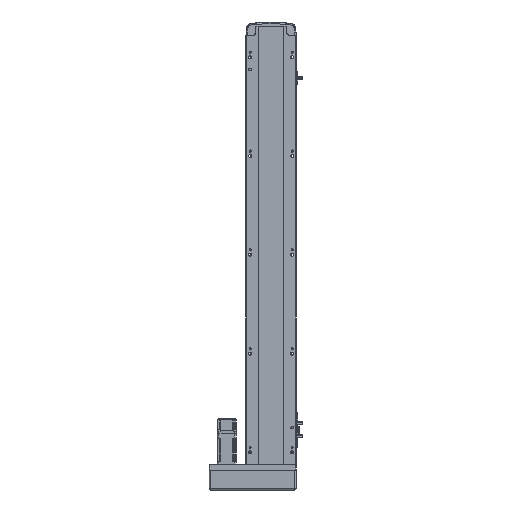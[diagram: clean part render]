
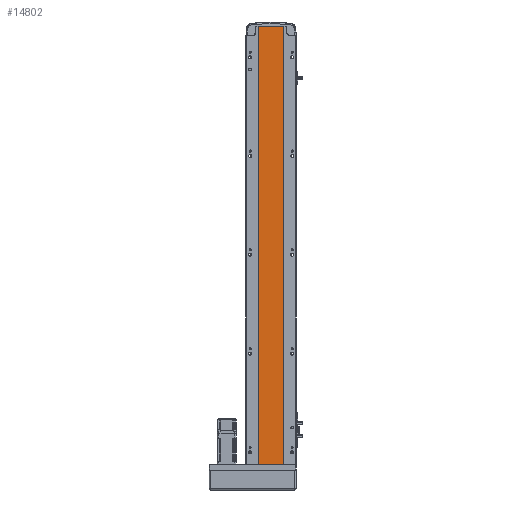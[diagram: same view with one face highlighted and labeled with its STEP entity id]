
A CAD part, front view. The second image highlights one B-rep face of the part: STEP entity #14802.
In plain terms, the highlighted planar face has unit normal (0, -1, 0).
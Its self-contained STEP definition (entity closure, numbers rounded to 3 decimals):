
#975 = CARTESIAN_POINT ( 'NONE',  ( -24.5, 2., 887. ) ) ;
#3799 = LINE ( 'NONE', #25584, #17126 ) ;
#4961 = CARTESIAN_POINT ( 'NONE',  ( -24.5, 2., 887. ) ) ;
#6339 = EDGE_CURVE ( 'NONE', #48648, #55537, #13476, .T. ) ;
#7697 = DIRECTION ( 'NONE',  ( 0., 1., 0. ) ) ;
#8355 = DIRECTION ( 'NONE',  ( 1., 0., 0. ) ) ;
#9385 = VECTOR ( 'NONE', #10562, 1000. ) ;
#10562 = DIRECTION ( 'NONE',  ( 1., 0., 0. ) ) ;
#11632 = PLANE ( 'NONE',  #30856 ) ;
#11707 = DIRECTION ( 'NONE',  ( 0., 0., -1. ) ) ;
#11777 = VERTEX_POINT ( 'NONE', #4961 ) ;
#13476 = LINE ( 'NONE', #39550, #15537 ) ;
#14493 = LINE ( 'NONE', #16240, #54543 ) ;
#14802 = ADVANCED_FACE ( 'NONE', ( #18472 ), #11632, .F. ) ;
#15537 = VECTOR ( 'NONE', #8355, 1000. ) ;
#16240 = CARTESIAN_POINT ( 'NONE',  ( 24.5, 2., 887. ) ) ;
#17126 = VECTOR ( 'NONE', #39745, 1000. ) ;
#17332 = ORIENTED_EDGE ( 'NONE', *, *, #6339, .T. ) ;
#18472 = FACE_OUTER_BOUND ( 'NONE', #46880, .T. ) ;
#20274 = ORIENTED_EDGE ( 'NONE', *, *, #23576, .T. ) ;
#21161 = CARTESIAN_POINT ( 'NONE',  ( 24.5, 2., 0. ) ) ;
#21930 = CARTESIAN_POINT ( 'NONE',  ( -24.5, 2., 0. ) ) ;
#23259 = EDGE_CURVE ( 'NONE', #11777, #39475, #50814, .T. ) ;
#23576 = EDGE_CURVE ( 'NONE', #11777, #48648, #3799, .T. ) ;
#25166 = DIRECTION ( 'NONE',  ( 0., 0., 1. ) ) ;
#25584 = CARTESIAN_POINT ( 'NONE',  ( -24.5, 2., 887. ) ) ;
#30856 = AXIS2_PLACEMENT_3D ( 'NONE', #43048, #7697, #25166 ) ;
#32229 = ORIENTED_EDGE ( 'NONE', *, *, #23259, .F. ) ;
#39475 = VERTEX_POINT ( 'NONE', #57021 ) ;
#39550 = CARTESIAN_POINT ( 'NONE',  ( 0., 2., 0. ) ) ;
#39745 = DIRECTION ( 'NONE',  ( 0., 0., -1. ) ) ;
#43048 = CARTESIAN_POINT ( 'NONE',  ( 0., 2., 887. ) ) ;
#46880 = EDGE_LOOP ( 'NONE', ( #17332, #51211, #32229, #20274 ) ) ;
#47451 = EDGE_CURVE ( 'NONE', #39475, #55537, #14493, .T. ) ;
#48648 = VERTEX_POINT ( 'NONE', #21930 ) ;
#50814 = LINE ( 'NONE', #975, #9385 ) ;
#51211 = ORIENTED_EDGE ( 'NONE', *, *, #47451, .F. ) ;
#54543 = VECTOR ( 'NONE', #11707, 1000. ) ;
#55537 = VERTEX_POINT ( 'NONE', #21161 ) ;
#57021 = CARTESIAN_POINT ( 'NONE',  ( 24.5, 2., 887. ) ) ;
